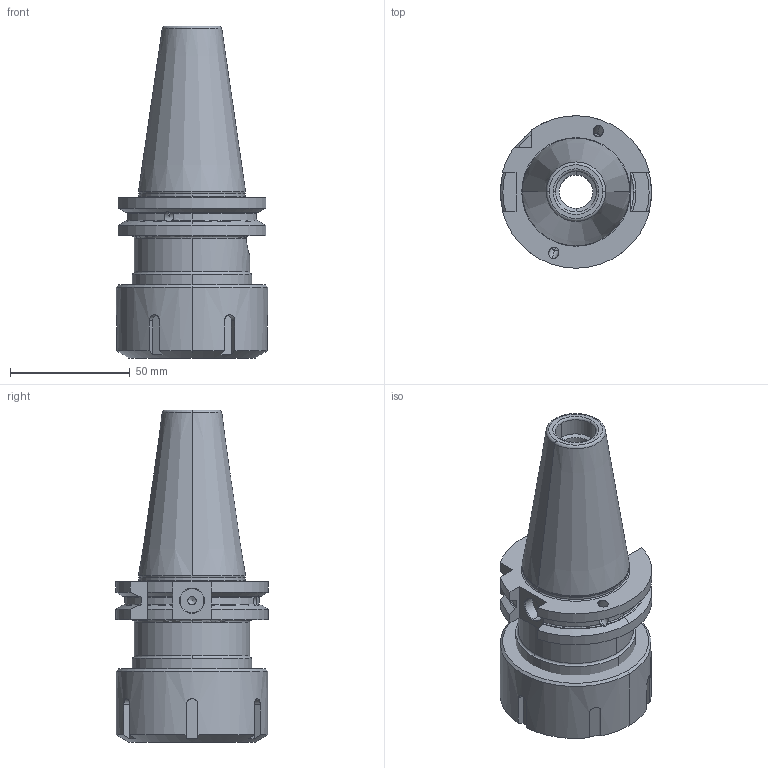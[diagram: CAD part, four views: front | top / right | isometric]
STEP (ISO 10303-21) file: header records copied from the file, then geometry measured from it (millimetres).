
FILE_DESCRIPTION(('STEP AP214'),'1');
FILE_NAME('cctmp_AECC16EF-A935-41A7-9D77-E1736A2C8C98_2020_10_19_10_11_05_0578..stp','2020-10-19T08:11:05',('Meusburger Georg GmbH & Co KG'),('CADClick - www.CADClick.com'),'Spatial InterOp 3D',' ','unknown authorization');
FILE_SCHEMA(('AUTOMOTIVE_DESIGN { 1 0 10303 214 1 1 1 1 }'));
Length unit declared in the file: millimetre
Products named in the file (3): HWZ 2219_SK40_40_70; HWZ 2219_SK40_40_70_2; HWZ 2219_SK40_40_70_1
Assembly tree (2 placements, depth 2):
  HWZ 2219_SK40_40_70
    HWZ 2219_SK40_40_70_2
    HWZ 2219_SK40_40_70_1
Bounding box: 63 x 63.55 x 138.4 mm (x, y, z)
Volume: 158185.5 mm3; surface area: 46237.8 mm2
Topology: 2 solids, 2 shells, 155 faces, 437 edges, 286 vertices
Faces by surface type: cylinder 52, plane 46, cone 33, torus 24
Entity records: 6834 total; most frequent: CARTESIAN_POINT 1508, ORIENTED_EDGE 870, DIRECTION 857, EDGE_CURVE 435, AXIS2_PLACEMENT_3D 349, VERTEX_POINT 285, CIRCLE 179, EDGE_LOOP 168
